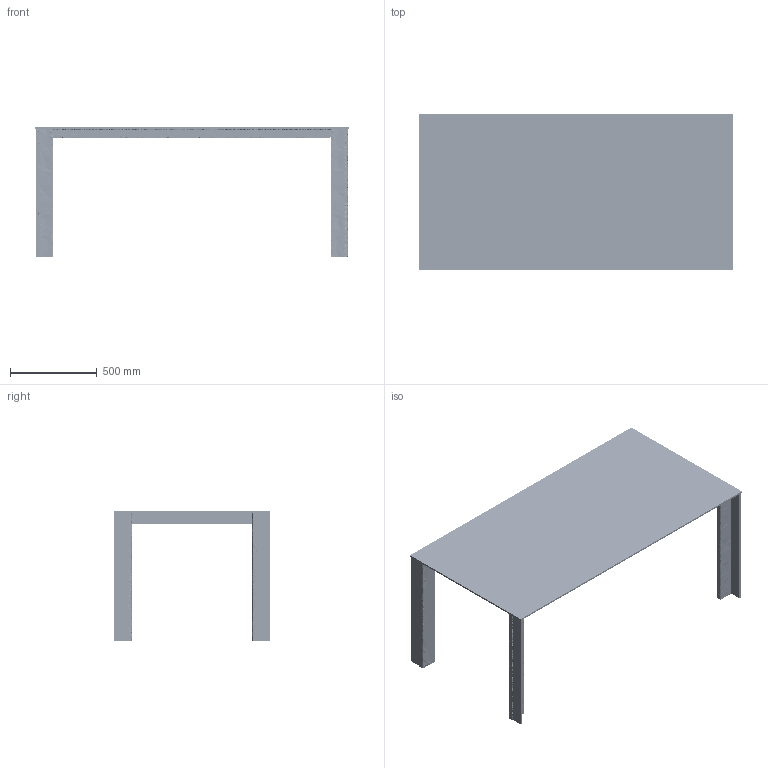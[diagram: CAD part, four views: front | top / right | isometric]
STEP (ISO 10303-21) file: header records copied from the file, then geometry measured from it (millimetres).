
FILE_DESCRIPTION(/* description */ (''),/* implementation_level */ '2;1');
FILE_NAME(/* name */ '10903 - Tale 180x90',/* time_stamp */ '2012-07-09T12:09:22+02:00',/* author */ (''),/* organization */ (''),/* preprocessor_version */ 'ST-DEVELOPER v10',/* originating_system */ '',/* authorisation */ '');
FILE_SCHEMA (('CONFIG_CONTROL_DESIGN'));
Length unit declared in the file: millimetre
Products named in the file (1): 1
Bounding box: 1800 x 900 x 748 mm (x, y, z)
Volume: 28535769.8 mm3; surface area: 8873078.4 mm2
Topology: 29 solids, 29 shells, 276 faces, 632 edges, 414 vertices
Faces by surface type: bspline 172, plane 104
Entity records: 19428 total; most frequent: CARTESIAN_POINT 15352, ORIENTED_EDGE 1232, EDGE_CURVE 616, VERTEX_POINT 414, EDGE_LOOP 368, B_SPLINE_CURVE_WITH_KNOTS 328, ADVANCED_FACE 276, FACE_OUTER_BOUND 276
